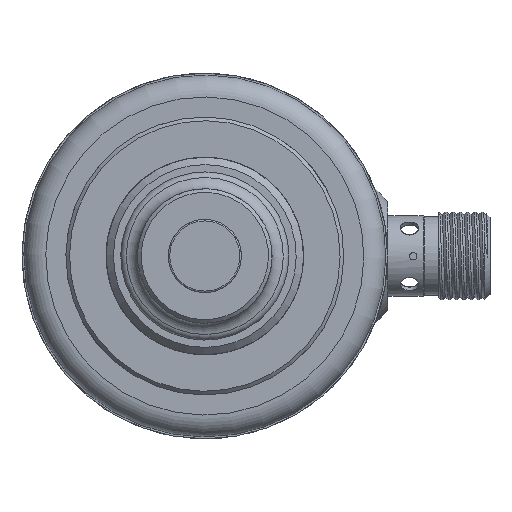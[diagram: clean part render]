
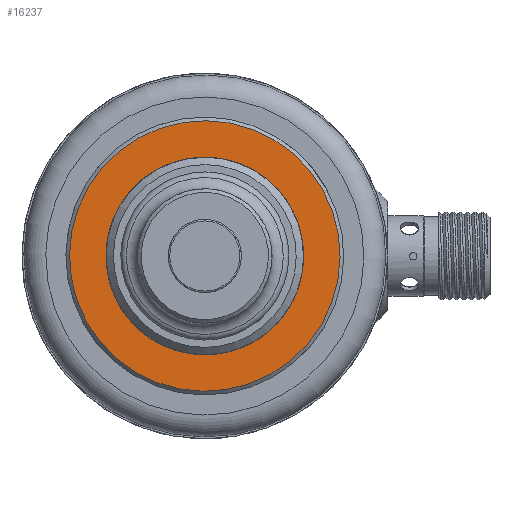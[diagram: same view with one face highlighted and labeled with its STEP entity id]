
A CAD part, front view. The second image highlights one B-rep face of the part: STEP entity #16237.
In plain terms, the highlighted planar face has unit normal (0, -1, 0) as drawn and (0, 0, 1) by its records, which use the part's own axes.
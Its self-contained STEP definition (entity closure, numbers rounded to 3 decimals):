
#1348 = VERTEX_POINT ( 'NONE', #12920 ) ;
#1779 = DIRECTION ( 'NONE',  ( 0., 0., -1. ) ) ;
#2145 = DIRECTION ( 'NONE',  ( -1., 0., 0. ) ) ;
#2567 = EDGE_CURVE ( 'NONE', #11190, #11190, #9419, .T. ) ;
#2609 = AXIS2_PLACEMENT_3D ( 'NONE', #9669, #14013, #9856 ) ;
#3964 = EDGE_LOOP ( 'NONE', ( #15050 ) ) ;
#6450 = DIRECTION ( 'NONE',  ( -1., 0., 0. ) ) ;
#7627 = AXIS2_PLACEMENT_3D ( 'NONE', #9242, #11831, #6450 ) ;
#8419 = ORIENTED_EDGE ( 'NONE', *, *, #2567, .T. ) ;
#8814 = FACE_BOUND ( 'NONE', #3964, .T. ) ;
#9242 = CARTESIAN_POINT ( 'NONE',  ( 0., 0., 0. ) ) ;
#9419 = CIRCLE ( 'NONE', #7627, 18.5 ) ;
#9669 = CARTESIAN_POINT ( 'NONE',  ( 0., 0., 0. ) ) ;
#9856 = DIRECTION ( 'NONE',  ( -1., 0., 0. ) ) ;
#10038 = AXIS2_PLACEMENT_3D ( 'NONE', #16070, #1779, #2145 ) ;
#11190 = VERTEX_POINT ( 'NONE', #15199 ) ;
#11688 = PLANE ( 'NONE',  #10038 ) ;
#11831 = DIRECTION ( 'NONE',  ( 0., 0., 1. ) ) ;
#12331 = EDGE_CURVE ( 'NONE', #1348, #1348, #13876, .T. ) ;
#12920 = CARTESIAN_POINT ( 'NONE',  ( -13.5, 0., 0. ) ) ;
#13876 = CIRCLE ( 'NONE', #2609, 13.5 ) ;
#14013 = DIRECTION ( 'NONE',  ( 0., 0., -1. ) ) ;
#14855 = FACE_OUTER_BOUND ( 'NONE', #15820, .T. ) ;
#15050 = ORIENTED_EDGE ( 'NONE', *, *, #12331, .T. ) ;
#15199 = CARTESIAN_POINT ( 'NONE',  ( -18.5, 0., 0. ) ) ;
#15820 = EDGE_LOOP ( 'NONE', ( #8419 ) ) ;
#16070 = CARTESIAN_POINT ( 'NONE',  ( 0., 0., 0. ) ) ;
#16237 = ADVANCED_FACE ( 'NONE', ( #8814, #14855 ), #11688, .F. ) ;
